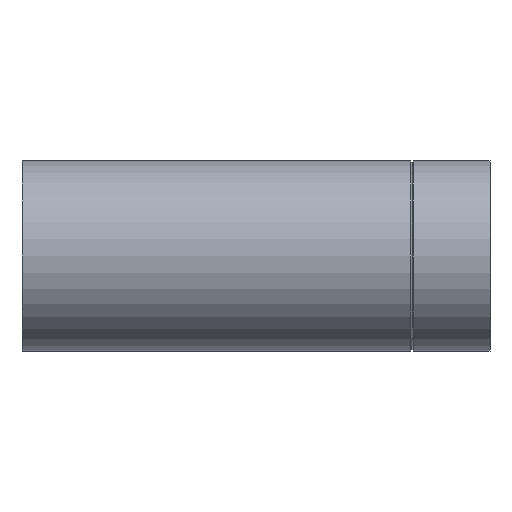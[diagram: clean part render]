
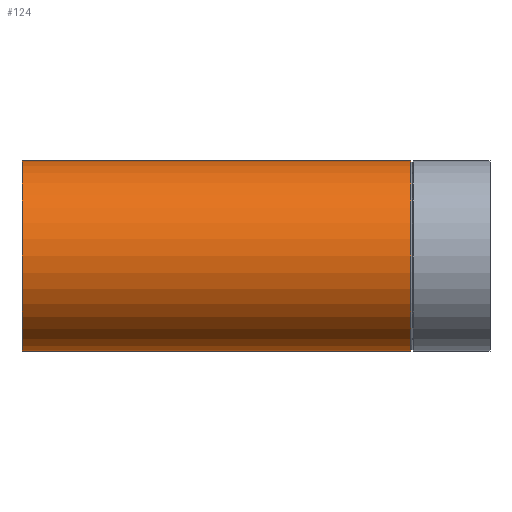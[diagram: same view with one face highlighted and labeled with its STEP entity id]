
A CAD part, left-side view. The second image highlights one B-rep face of the part: STEP entity #124.
In plain terms, the highlighted cylindrical face has radius 55 mm (diameter 110 mm), a full revolution.
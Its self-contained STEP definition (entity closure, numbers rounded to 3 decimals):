
#16=B_SPLINE_CURVE_WITH_KNOTS($,3,(#205,#206,#207,#208,#209,#210,#211,#212,
#213,#214,#215,#216,#217,#218,#219,#220,#221,#222,#223,#224,#225,#226,#227,
#228,#229,#230,#231,#232,#233,#234,#235,#236,#237,#238,#239,#240,#241,#242,
#243,#244,#245,#246,#247,#248,#249,#250,#251,#252,#253,#254,#255,#256,#257,
#258,#259,#260,#261,#262,#263,#264,#265,#266,#267,#268,#269,#270,#271,#272,
#273,#274,#275,#276,#277,#278),.UNSPECIFIED.,.T.,.F.,(4,2,2,2,2,2,2,2,2,
2,2,2,2,2,2,2,2,2,2,2,2,2,2,2,2,2,2,2,2,2,2,2,2,2,2,2,4),(0.,1.601,
3.203,4.939,6.675,7.785,8.895,
9.553,9.882,10.212,10.541,10.87,
11.529,12.638,13.748,15.484,17.221,
18.822,20.423,21.348,21.81,22.272,
23.196,24.12,24.992,25.864,26.736,
27.608,28.479,29.351,30.223,31.095,
32.019,32.943,33.406,33.868,34.792),
 .UNSPECIFIED.);
#18=CYLINDRICAL_SURFACE($,#140,55.);
#25=FACE_BOUND($,#49,.T.);
#26=FACE_BOUND($,#50,.T.);
#27=FACE_BOUND($,#51,.T.);
#49=EDGE_LOOP($,(#102));
#50=EDGE_LOOP($,(#103));
#51=EDGE_LOOP($,(#104));
#69=CIRCLE($,#139,55.);
#70=CIRCLE($,#141,55.);
#78=VERTEX_POINT($,#201);
#79=VERTEX_POINT($,#204);
#80=VERTEX_POINT($,#279);
#89=EDGE_CURVE($,#78,#78,#69,.T.);
#90=EDGE_CURVE($,#79,#79,#16,.T.);
#91=EDGE_CURVE($,#80,#80,#70,.T.);
#102=ORIENTED_EDGE($,*,*,#90,.T.);
#103=ORIENTED_EDGE($,*,*,#91,.T.);
#104=ORIENTED_EDGE($,*,*,#89,.T.);
#124=ADVANCED_FACE($,(#25,#26,#27),#18,.T.);
#139=AXIS2_PLACEMENT_3D($,#202,#164,#165);
#140=AXIS2_PLACEMENT_3D($,#203,#166,#167);
#141=AXIS2_PLACEMENT_3D($,#280,#168,#169);
#164=DIRECTION('center_axis',(0.,1.,0.));
#165=DIRECTION('ref_axis',(1.,0.,0.));
#166=DIRECTION('center_axis',(0.,1.,0.));
#167=DIRECTION('ref_axis',(1.,0.,0.));
#168=DIRECTION('center_axis',(0.,-1.,0.));
#169=DIRECTION('ref_axis',(1.,0.,0.));
#201=CARTESIAN_POINT('',(55.,45.635,0.));
#202=CARTESIAN_POINT('Origin',(0.,45.635,0.));
#203=CARTESIAN_POINT('Origin',(0.,0.,0.));
#204=CARTESIAN_POINT('',(31.623,121.623,45.));
#205=CARTESIAN_POINT('Ctrl Pts',(31.623,121.623,45.));
#206=CARTESIAN_POINT('Ctrl Pts',(31.623,126.961,45.));
#207=CARTESIAN_POINT('Ctrl Pts',(32.318,132.719,44.523));
#208=CARTESIAN_POINT('Ctrl Pts',(34.404,144.066,42.931));
#209=CARTESIAN_POINT('Ctrl Pts',(35.78,149.657,41.811));
#210=CARTESIAN_POINT('Ctrl Pts',(38.605,160.103,39.225));
#211=CARTESIAN_POINT('Ctrl Pts',(40.364,165.956,37.466));
#212=CARTESIAN_POINT('Ctrl Pts',(43.981,177.306,33.145));
#213=CARTESIAN_POINT('Ctrl Pts',(45.834,182.802,30.576));
#214=CARTESIAN_POINT('Ctrl Pts',(48.538,190.631,25.95));
#215=CARTESIAN_POINT('Ctrl Pts',(49.675,193.865,23.766));
#216=CARTESIAN_POINT('Ctrl Pts',(51.779,199.774,18.745));
#217=CARTESIAN_POINT('Ctrl Pts',(52.743,202.444,15.901));
#218=CARTESIAN_POINT('Ctrl Pts',(53.903,205.638,11.085));
#219=CARTESIAN_POINT('Ctrl Pts',(54.307,206.746,8.986));
#220=CARTESIAN_POINT('Ctrl Pts',(54.72,207.875,5.654));
#221=CARTESIAN_POINT('Ctrl Pts',(54.826,208.166,4.512));
#222=CARTESIAN_POINT('Ctrl Pts',(54.966,208.548,2.234));
#223=CARTESIAN_POINT('Ctrl Pts',(55.,208.64,1.098));
#224=CARTESIAN_POINT('Ctrl Pts',(55.,208.64,-1.098));
#225=CARTESIAN_POINT('Ctrl Pts',(54.966,208.548,-2.234));
#226=CARTESIAN_POINT('Ctrl Pts',(54.826,208.166,-4.512));
#227=CARTESIAN_POINT('Ctrl Pts',(54.72,207.875,-5.654));
#228=CARTESIAN_POINT('Ctrl Pts',(54.307,206.746,-8.986));
#229=CARTESIAN_POINT('Ctrl Pts',(53.903,205.638,-11.085));
#230=CARTESIAN_POINT('Ctrl Pts',(52.743,202.444,-15.901));
#231=CARTESIAN_POINT('Ctrl Pts',(51.779,199.774,-18.745));
#232=CARTESIAN_POINT('Ctrl Pts',(49.675,193.865,-23.766));
#233=CARTESIAN_POINT('Ctrl Pts',(48.538,190.631,-25.95));
#234=CARTESIAN_POINT('Ctrl Pts',(45.834,182.802,-30.576));
#235=CARTESIAN_POINT('Ctrl Pts',(43.981,177.306,-33.145));
#236=CARTESIAN_POINT('Ctrl Pts',(40.364,165.956,-37.466));
#237=CARTESIAN_POINT('Ctrl Pts',(38.605,160.103,-39.225));
#238=CARTESIAN_POINT('Ctrl Pts',(35.78,149.657,-41.811));
#239=CARTESIAN_POINT('Ctrl Pts',(34.404,144.066,-42.931));
#240=CARTESIAN_POINT('Ctrl Pts',(32.318,132.719,-44.523));
#241=CARTESIAN_POINT('Ctrl Pts',(31.623,126.961,-45.));
#242=CARTESIAN_POINT('Ctrl Pts',(31.623,118.542,-45.));
#243=CARTESIAN_POINT('Ctrl Pts',(31.855,115.341,-44.841));
#244=CARTESIAN_POINT('Ctrl Pts',(32.725,110.681,-44.207));
#245=CARTESIAN_POINT('Ctrl Pts',(33.1,109.15,-43.928));
#246=CARTESIAN_POINT('Ctrl Pts',(34.021,106.183,-43.219));
#247=CARTESIAN_POINT('Ctrl Pts',(34.566,104.747,-42.788));
#248=CARTESIAN_POINT('Ctrl Pts',(36.412,100.637,-41.252));
#249=CARTESIAN_POINT('Ctrl Pts',(37.936,98.145,-39.89));
#250=CARTESIAN_POINT('Ctrl Pts',(41.155,93.783,-36.56));
#251=CARTESIAN_POINT('Ctrl Pts',(42.841,91.906,-34.593));
#252=CARTESIAN_POINT('Ctrl Pts',(45.872,88.83,-30.446));
#253=CARTESIAN_POINT('Ctrl Pts',(47.326,87.506,-28.164));
#254=CARTESIAN_POINT('Ctrl Pts',(49.958,85.24,-23.177));
#255=CARTESIAN_POINT('Ctrl Pts',(51.135,84.296,-20.473));
#256=CARTESIAN_POINT('Ctrl Pts',(53.05,82.803,-14.818));
#257=CARTESIAN_POINT('Ctrl Pts',(53.79,82.251,-11.863));
#258=CARTESIAN_POINT('Ctrl Pts',(54.765,81.53,-5.906));
#259=CARTESIAN_POINT('Ctrl Pts',(55.,81.36,-2.906));
#260=CARTESIAN_POINT('Ctrl Pts',(55.,81.36,2.906));
#261=CARTESIAN_POINT('Ctrl Pts',(54.765,81.53,5.906));
#262=CARTESIAN_POINT('Ctrl Pts',(53.79,82.251,11.863));
#263=CARTESIAN_POINT('Ctrl Pts',(53.05,82.803,14.818));
#264=CARTESIAN_POINT('Ctrl Pts',(51.135,84.296,20.473));
#265=CARTESIAN_POINT('Ctrl Pts',(49.958,85.24,23.177));
#266=CARTESIAN_POINT('Ctrl Pts',(47.326,87.506,28.164));
#267=CARTESIAN_POINT('Ctrl Pts',(45.872,88.83,30.446));
#268=CARTESIAN_POINT('Ctrl Pts',(42.841,91.906,34.593));
#269=CARTESIAN_POINT('Ctrl Pts',(41.155,93.783,36.56));
#270=CARTESIAN_POINT('Ctrl Pts',(37.936,98.145,39.89));
#271=CARTESIAN_POINT('Ctrl Pts',(36.412,100.637,41.252));
#272=CARTESIAN_POINT('Ctrl Pts',(34.566,104.747,42.788));
#273=CARTESIAN_POINT('Ctrl Pts',(34.021,106.183,43.219));
#274=CARTESIAN_POINT('Ctrl Pts',(33.1,109.15,43.928));
#275=CARTESIAN_POINT('Ctrl Pts',(32.725,110.681,44.207));
#276=CARTESIAN_POINT('Ctrl Pts',(31.855,115.341,44.841));
#277=CARTESIAN_POINT('Ctrl Pts',(31.623,118.542,45.));
#278=CARTESIAN_POINT('Ctrl Pts',(31.623,121.623,45.));
#279=CARTESIAN_POINT('',(-55.,270.,0.));
#280=CARTESIAN_POINT('Origin',(0.,270.,0.));
